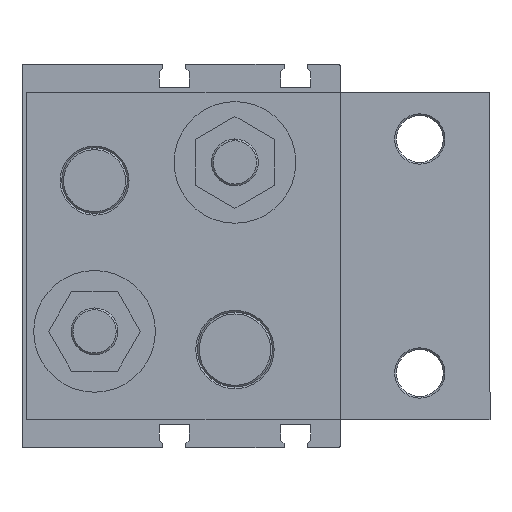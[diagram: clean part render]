
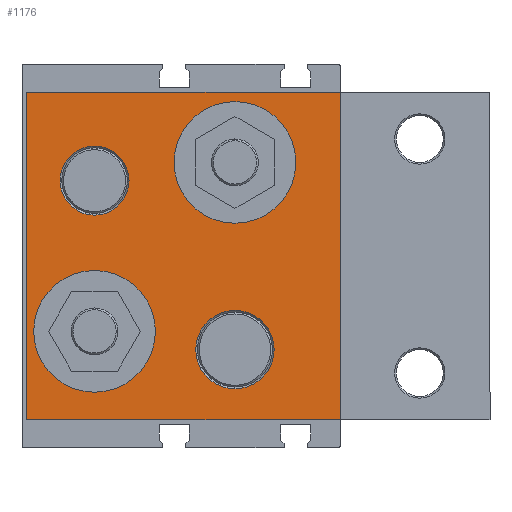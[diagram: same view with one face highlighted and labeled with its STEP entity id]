
A CAD part, left-side view. The second image highlights one B-rep face of the part: STEP entity #1176.
In plain terms, the highlighted planar face has unit normal (-1, 0, 0) as drawn and (1, 0, 0) by its records, which use the part's own axes.
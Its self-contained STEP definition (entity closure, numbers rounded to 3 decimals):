
#55 = AXIS2_PLACEMENT_3D ( 'NONE', #847, #4862, #1433 ) ;
#110 = CARTESIAN_POINT ( 'NONE',  ( 24., -14.5, -16.1 ) ) ;
#153 = DIRECTION ( 'NONE',  ( 0., 1., 0. ) ) ;
#219 = VERTEX_POINT ( 'NONE', #318 ) ;
#295 = VERTEX_POINT ( 'NONE', #3161 ) ;
#318 = CARTESIAN_POINT ( 'NONE',  ( 24., -7.125, -16.1 ) ) ;
#406 = VECTOR ( 'NONE', #736, 1000. ) ;
#532 = DIRECTION ( 'NONE',  ( 0., 1., 0. ) ) ;
#543 = AXIS2_PLACEMENT_3D ( 'NONE', #1330, #3073, #7112 ) ;
#685 = CIRCLE ( 'NONE', #3834, 7.375 ) ;
#689 = DIRECTION ( 'NONE',  ( 0., 1., 0. ) ) ;
#736 = DIRECTION ( 'NONE',  ( 0., 0., -1. ) ) ;
#835 = CARTESIAN_POINT ( 'NONE',  ( 24., -44.5, 28.375 ) ) ;
#847 = CARTESIAN_POINT ( 'NONE',  ( 24., -44.5, -20. ) ) ;
#947 = EDGE_CURVE ( 'NONE', #4085, #7476, #7232, .T. ) ;
#976 = CIRCLE ( 'NONE', #2421, 13. ) ;
#1010 = FACE_BOUND ( 'NONE', #3817, .T. ) ;
#1054 = CIRCLE ( 'NONE', #55, 13. ) ;
#1069 = DIRECTION ( 'NONE',  ( 1., 0., 0. ) ) ;
#1176 = ADVANCED_FACE ( 'NONE', ( #5758, #2518, #1010, #4235, #4063 ), #2483, .F. ) ;
#1279 = CARTESIAN_POINT ( 'NONE',  ( 24., 0., 35. ) ) ;
#1330 = CARTESIAN_POINT ( 'NONE',  ( 24., -67., 35. ) ) ;
#1433 = DIRECTION ( 'NONE',  ( 0., 1., 0. ) ) ;
#1600 = DIRECTION ( 'NONE',  ( 1., 0., 0. ) ) ;
#1705 = ORIENTED_EDGE ( 'NONE', *, *, #7482, .T. ) ;
#1772 = CARTESIAN_POINT ( 'NONE',  ( 24., 0., -35. ) ) ;
#1917 = CARTESIAN_POINT ( 'NONE',  ( 24., -67., -35. ) ) ;
#1933 = LINE ( 'NONE', #5296, #406 ) ;
#1955 = EDGE_CURVE ( 'NONE', #2961, #2327, #976, .T. ) ;
#2072 = ORIENTED_EDGE ( 'NONE', *, *, #4848, .F. ) ;
#2097 = CIRCLE ( 'NONE', #5154, 7.375 ) ;
#2241 = LINE ( 'NONE', #1772, #3588 ) ;
#2290 = EDGE_CURVE ( 'NONE', #219, #6130, #685, .T. ) ;
#2327 = VERTEX_POINT ( 'NONE', #5857 ) ;
#2421 = AXIS2_PLACEMENT_3D ( 'NONE', #5972, #2531, #6571 ) ;
#2434 = DIRECTION ( 'NONE',  ( 1., 0., 0. ) ) ;
#2483 = PLANE ( 'NONE',  #543 ) ;
#2518 = FACE_BOUND ( 'NONE', #3086, .T. ) ;
#2531 = DIRECTION ( 'NONE',  ( 1., 0., 0. ) ) ;
#2658 = EDGE_CURVE ( 'NONE', #295, #3376, #1054, .T. ) ;
#2745 = ORIENTED_EDGE ( 'NONE', *, *, #6862, .F. ) ;
#2939 = VECTOR ( 'NONE', #5534, 1000. ) ;
#2961 = VERTEX_POINT ( 'NONE', #3867 ) ;
#3065 = ORIENTED_EDGE ( 'NONE', *, *, #3338, .F. ) ;
#3073 = DIRECTION ( 'NONE',  ( -1., 0., 0. ) ) ;
#3086 = EDGE_LOOP ( 'NONE', ( #6676, #6878 ) ) ;
#3096 = AXIS2_PLACEMENT_3D ( 'NONE', #7059, #3610, #153 ) ;
#3127 = DIRECTION ( 'NONE',  ( 0., 0., 1. ) ) ;
#3155 = ORIENTED_EDGE ( 'NONE', *, *, #6829, .F. ) ;
#3161 = CARTESIAN_POINT ( 'NONE',  ( 24., -31.5, -20. ) ) ;
#3217 = CIRCLE ( 'NONE', #3821, 8.375 ) ;
#3338 = EDGE_CURVE ( 'NONE', #6130, #219, #2097, .T. ) ;
#3376 = VERTEX_POINT ( 'NONE', #5634 ) ;
#3492 = AXIS2_PLACEMENT_3D ( 'NONE', #5873, #2434, #6471 ) ;
#3514 = DIRECTION ( 'NONE',  ( 0., -1., 0. ) ) ;
#3540 = EDGE_CURVE ( 'NONE', #6082, #4125, #6594, .T. ) ;
#3588 = VECTOR ( 'NONE', #3514, 1000. ) ;
#3602 = VERTEX_POINT ( 'NONE', #1917 ) ;
#3610 = DIRECTION ( 'NONE',  ( 1., 0., 0. ) ) ;
#3817 = EDGE_LOOP ( 'NONE', ( #7334, #2745 ) ) ;
#3821 = AXIS2_PLACEMENT_3D ( 'NONE', #4516, #1069, #5072 ) ;
#3834 = AXIS2_PLACEMENT_3D ( 'NONE', #110, #4138, #689 ) ;
#3867 = CARTESIAN_POINT ( 'NONE',  ( 24., -1.5, 16.1 ) ) ;
#3989 = DIRECTION ( 'NONE',  ( 1., 0., 0. ) ) ;
#4063 = FACE_BOUND ( 'NONE', #6482, .T. ) ;
#4085 = VERTEX_POINT ( 'NONE', #5441 ) ;
#4125 = VERTEX_POINT ( 'NONE', #5496 ) ;
#4137 = ORIENTED_EDGE ( 'NONE', *, *, #6207, .T. ) ;
#4138 = DIRECTION ( 'NONE',  ( 1., 0., 0. ) ) ;
#4145 = VECTOR ( 'NONE', #3127, 1000. ) ;
#4162 = ORIENTED_EDGE ( 'NONE', *, *, #2290, .F. ) ;
#4168 = CARTESIAN_POINT ( 'NONE',  ( 24., 0., 35. ) ) ;
#4235 = FACE_BOUND ( 'NONE', #4783, .T. ) ;
#4516 = CARTESIAN_POINT ( 'NONE',  ( 24., -44.5, 20. ) ) ;
#4568 = AXIS2_PLACEMENT_3D ( 'NONE', #7439, #3989, #532 ) ;
#4663 = VERTEX_POINT ( 'NONE', #5039 ) ;
#4669 = EDGE_LOOP ( 'NONE', ( #5170, #4137, #1705, #2072 ) ) ;
#4783 = EDGE_LOOP ( 'NONE', ( #3155, #5614 ) ) ;
#4848 = EDGE_CURVE ( 'NONE', #4085, #3602, #2241, .T. ) ;
#4862 = DIRECTION ( 'NONE',  ( 1., 0., 0. ) ) ;
#4983 = CARTESIAN_POINT ( 'NONE',  ( 24., 0., 35. ) ) ;
#5035 = CARTESIAN_POINT ( 'NONE',  ( 24., -14.5, -16.1 ) ) ;
#5039 = CARTESIAN_POINT ( 'NONE',  ( 24., -67., 35. ) ) ;
#5072 = DIRECTION ( 'NONE',  ( 0., 0., -1. ) ) ;
#5154 = AXIS2_PLACEMENT_3D ( 'NONE', #5035, #1600, #5606 ) ;
#5170 = ORIENTED_EDGE ( 'NONE', *, *, #947, .T. ) ;
#5296 = CARTESIAN_POINT ( 'NONE',  ( 24., -67., 35. ) ) ;
#5441 = CARTESIAN_POINT ( 'NONE',  ( 24., 0., -35. ) ) ;
#5496 = CARTESIAN_POINT ( 'NONE',  ( 24., -44.5, 11.625 ) ) ;
#5534 = DIRECTION ( 'NONE',  ( 0., -1., 0. ) ) ;
#5606 = DIRECTION ( 'NONE',  ( 0., 1., 0. ) ) ;
#5614 = ORIENTED_EDGE ( 'NONE', *, *, #3540, .F. ) ;
#5634 = CARTESIAN_POINT ( 'NONE',  ( 24., -57.5, -20. ) ) ;
#5758 = FACE_OUTER_BOUND ( 'NONE', #4669, .T. ) ;
#5857 = CARTESIAN_POINT ( 'NONE',  ( 24., -27.5, 16.1 ) ) ;
#5873 = CARTESIAN_POINT ( 'NONE',  ( 24., -44.5, 20. ) ) ;
#5972 = CARTESIAN_POINT ( 'NONE',  ( 24., -14.5, 16.1 ) ) ;
#6082 = VERTEX_POINT ( 'NONE', #835 ) ;
#6093 = CIRCLE ( 'NONE', #4568, 13. ) ;
#6130 = VERTEX_POINT ( 'NONE', #7227 ) ;
#6207 = EDGE_CURVE ( 'NONE', #7476, #4663, #7376, .T. ) ;
#6471 = DIRECTION ( 'NONE',  ( 0., 0., -1. ) ) ;
#6482 = EDGE_LOOP ( 'NONE', ( #4162, #3065 ) ) ;
#6527 = CIRCLE ( 'NONE', #3096, 13. ) ;
#6571 = DIRECTION ( 'NONE',  ( 0., 1., 0. ) ) ;
#6594 = CIRCLE ( 'NONE', #3492, 8.375 ) ;
#6676 = ORIENTED_EDGE ( 'NONE', *, *, #1955, .F. ) ;
#6829 = EDGE_CURVE ( 'NONE', #4125, #6082, #3217, .T. ) ;
#6862 = EDGE_CURVE ( 'NONE', #3376, #295, #6093, .T. ) ;
#6878 = ORIENTED_EDGE ( 'NONE', *, *, #7462, .F. ) ;
#7059 = CARTESIAN_POINT ( 'NONE',  ( 24., -14.5, 16.1 ) ) ;
#7112 = DIRECTION ( 'NONE',  ( 0., 0., 1. ) ) ;
#7227 = CARTESIAN_POINT ( 'NONE',  ( 24., -21.875, -16.1 ) ) ;
#7232 = LINE ( 'NONE', #4168, #4145 ) ;
#7334 = ORIENTED_EDGE ( 'NONE', *, *, #2658, .F. ) ;
#7376 = LINE ( 'NONE', #4983, #2939 ) ;
#7439 = CARTESIAN_POINT ( 'NONE',  ( 24., -44.5, -20. ) ) ;
#7462 = EDGE_CURVE ( 'NONE', #2327, #2961, #6527, .T. ) ;
#7476 = VERTEX_POINT ( 'NONE', #1279 ) ;
#7482 = EDGE_CURVE ( 'NONE', #4663, #3602, #1933, .T. ) ;
